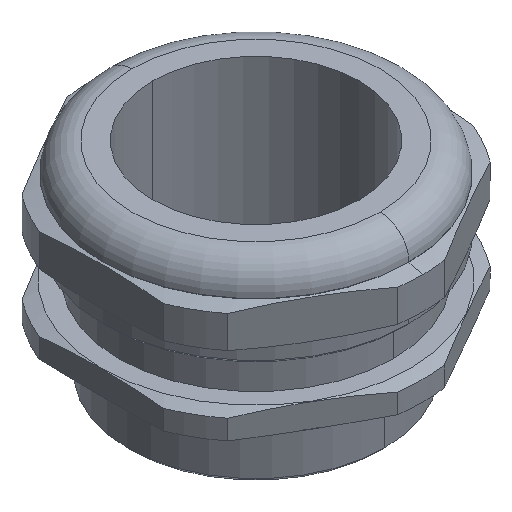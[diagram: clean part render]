
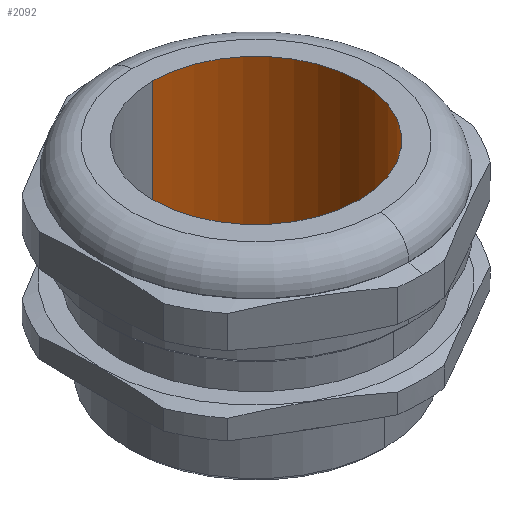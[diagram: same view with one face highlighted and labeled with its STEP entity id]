
A CAD part, isometric view. The second image highlights one B-rep face of the part: STEP entity #2092.
In plain terms, the highlighted cylindrical face has radius 30 mm (diameter 60 mm), a partial arc.
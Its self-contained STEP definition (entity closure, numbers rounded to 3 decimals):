
#265 = LINE ( 'NONE', #286, #285 ) ;
#284 = DIRECTION ( 'NONE',  ( 0., 0., -1. ) ) ;
#285 = VECTOR ( 'NONE', #284, 1000. ) ;
#286 = CARTESIAN_POINT ( 'NONE',  ( 0., 30., 0. ) ) ;
#1054 = CYLINDRICAL_SURFACE ( 'NONE', #1098, 30. ) ;
#1085 = DIRECTION ( 'NONE',  ( 0., 1., 0. ) ) ;
#1086 = DIRECTION ( 'NONE',  ( 0., 0., -1. ) ) ;
#1097 = CARTESIAN_POINT ( 'NONE',  ( 0., 0., 0. ) ) ;
#1098 = AXIS2_PLACEMENT_3D ( 'NONE', #1097, #1086, #1085 ) ;
#1109 = FACE_OUTER_BOUND ( 'NONE', #2093, .T. ) ;
#1112 = AXIS2_PLACEMENT_3D ( 'NONE', #1116, #1120, #1119 ) ;
#1113 = CIRCLE ( 'NONE', #1112, 30. ) ;
#1116 = CARTESIAN_POINT ( 'NONE',  ( 0., 0., 0. ) ) ;
#1119 = DIRECTION ( 'NONE',  ( 0., 1., 0. ) ) ;
#1120 = DIRECTION ( 'NONE',  ( 0., 0., -1. ) ) ;
#1122 = DIRECTION ( 'NONE',  ( 0., 1., 0. ) ) ;
#1123 = DIRECTION ( 'NONE',  ( 0., 0., -1. ) ) ;
#1124 = AXIS2_PLACEMENT_3D ( 'NONE', #1154, #1123, #1122 ) ;
#1125 = CIRCLE ( 'NONE', #1124, 30. ) ;
#1154 = CARTESIAN_POINT ( 'NONE',  ( 0., 0., 60. ) ) ;
#1559 = VERTEX_POINT ( 'NONE', #2782 ) ;
#1560 = VERTEX_POINT ( 'NONE', #2893 ) ;
#1583 = VERTEX_POINT ( 'NONE', #2806 ) ;
#1586 = VERTEX_POINT ( 'NONE', #2785 ) ;
#1594 = EDGE_CURVE ( 'NONE', #1559, #1586, #2768, .T. ) ;
#1648 = EDGE_CURVE ( 'NONE', #1560, #1583, #265, .T. ) ;
#2029 = ORIENTED_EDGE ( 'NONE', *, *, #1594, .F. ) ;
#2070 = ORIENTED_EDGE ( 'NONE', *, *, #2111, .T. ) ;
#2092 = ADVANCED_FACE ( 'NONE', ( #1109 ), #1054, .F. ) ;
#2093 = EDGE_LOOP ( 'NONE', ( #2029, #2103, #2101, #2070 ) ) ;
#2100 = EDGE_CURVE ( 'NONE', #1560, #1559, #1125, .T. ) ;
#2101 = ORIENTED_EDGE ( 'NONE', *, *, #1648, .T. ) ;
#2103 = ORIENTED_EDGE ( 'NONE', *, *, #2100, .F. ) ;
#2111 = EDGE_CURVE ( 'NONE', #1583, #1586, #1113, .T. ) ;
#2766 = DIRECTION ( 'NONE',  ( 0., 0., -1. ) ) ;
#2767 = CARTESIAN_POINT ( 'NONE',  ( 0., -30., 0. ) ) ;
#2768 = LINE ( 'NONE', #2767, #2835 ) ;
#2782 = CARTESIAN_POINT ( 'NONE',  ( 0., -30., 60. ) ) ;
#2785 = CARTESIAN_POINT ( 'NONE',  ( 0., -30., 0. ) ) ;
#2806 = CARTESIAN_POINT ( 'NONE',  ( 0., 30., 0. ) ) ;
#2835 = VECTOR ( 'NONE', #2766, 1000. ) ;
#2893 = CARTESIAN_POINT ( 'NONE',  ( 0., 30., 60. ) ) ;
